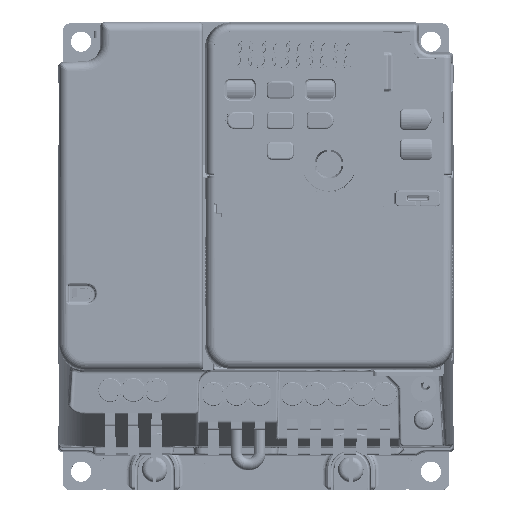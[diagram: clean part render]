
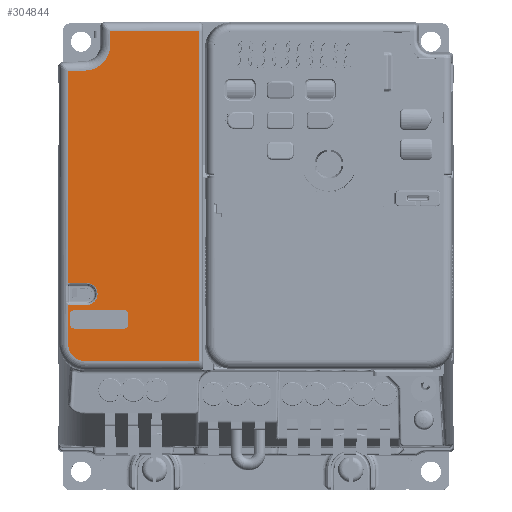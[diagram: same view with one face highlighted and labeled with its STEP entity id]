
A CAD part, top view. The second image highlights one B-rep face of the part: STEP entity #304844.
In plain terms, the highlighted planar face has unit normal (0, 0, 1).
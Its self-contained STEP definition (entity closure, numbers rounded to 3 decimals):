
#238675=CARTESIAN_POINT('',(-40.,125.5,
107.3));
#238694=CARTESIAN_POINT('',(-15.622,125.5,
107.3));
#238696=DIRECTION('',(-1.,0.,0.));
#238697=VECTOR('',#238696,24.378);
#238698=CARTESIAN_POINT('',(-15.622,125.5,
107.3));
#238699=LINE('',#238698,#238697);
#238715=DIRECTION('',(0.,-1.,0.));
#238716=VECTOR('',#238715,3.73);
#238717=CARTESIAN_POINT('',(-40.,125.5,
107.3));
#238718=LINE('',#238717,#238716);
#238723=CARTESIAN_POINT('',(-51.044,56.544,
107.3));
#238724=CARTESIAN_POINT('',(-51.097,56.544,
107.3));
#238725=CARTESIAN_POINT('',(-51.201,56.535,
107.3));
#238726=CARTESIAN_POINT('',(-51.356,56.498,
107.3));
#238727=CARTESIAN_POINT('',(-51.453,56.458,
107.3));
#238728=CARTESIAN_POINT('',(-51.5,56.434,107.3));
#238730=DIRECTION('',(0.999,0.052,0.));
#238731=VECTOR('',#238730,4.873);
#238732=CARTESIAN_POINT('',(-51.5,114.525,107.3));
#238733=LINE('',#238732,#238731);
#238734=CARTESIAN_POINT('',(-47.,121.77,107.3));
#238735=DIRECTION('',(0.,0.,1.));
#238736=DIRECTION('',(0.052,-0.999,0.));
#238737=AXIS2_PLACEMENT_3D('',#238734,#238735,#238736);
#238739=CARTESIAN_POINT('',(-47.,39.6,107.3));
#238740=DIRECTION('',(0.,0.,-1.));
#238741=DIRECTION('',(0.,-1.,0.));
#238742=AXIS2_PLACEMENT_3D('',#238739,#238740,#238741);
#238744=CARTESIAN_POINT('',(-51.5,50.566,107.3));
#238745=CARTESIAN_POINT('',(-51.453,50.542,
107.3));
#238746=CARTESIAN_POINT('',(-51.356,50.502,
107.3));
#238747=CARTESIAN_POINT('',(-51.201,50.465,
107.3));
#238748=CARTESIAN_POINT('',(-51.097,50.456,
107.3));
#238749=CARTESIAN_POINT('',(-51.044,50.456,
107.3));
#238751=CARTESIAN_POINT('',(-46.5,53.5,107.3));
#238752=DIRECTION('',(0.,0.,1.));
#238753=DIRECTION('',(0.,-1.,0.));
#238754=AXIS2_PLACEMENT_3D('',#238751,#238752,#238753);
#238756=CARTESIAN_POINT('',(-50.,45.,107.3));
#238757=DIRECTION('',(0.,0.,1.));
#238758=DIRECTION('',(-1.,0.,0.));
#238759=AXIS2_PLACEMENT_3D('',#238756,#238757,#238758);
#238761=CARTESIAN_POINT('',(-36.,45.,107.3));
#238762=DIRECTION('',(0.,0.,1.));
#238763=DIRECTION('',(0.,-1.,0.));
#238764=AXIS2_PLACEMENT_3D('',#238761,#238762,#238763);
#238766=CARTESIAN_POINT('',(-36.,48.,107.3));
#238767=DIRECTION('',(0.,0.,1.));
#238768=DIRECTION('',(1.,0.,0.));
#238769=AXIS2_PLACEMENT_3D('',#238766,#238767,#238768);
#238771=CARTESIAN_POINT('',(-50.,48.,107.3));
#238772=DIRECTION('',(0.,0.,1.));
#238773=DIRECTION('',(0.,1.,0.));
#238774=AXIS2_PLACEMENT_3D('',#238771,#238772,#238773);
#238776=DIRECTION('',(1.,0.,0.));
#238777=VECTOR('',#238776,4.544);
#238778=CARTESIAN_POINT('',(-51.044,56.544,
107.3));
#238779=LINE('',#238778,#238777);
#238821=DIRECTION('',(-1.,0.,0.));
#238822=VECTOR('',#238821,4.544);
#238823=CARTESIAN_POINT('',(-46.5,50.456,107.3));
#238824=LINE('',#238823,#238822);
#238855=DIRECTION('',(0.,-1.,0.));
#238856=VECTOR('',#238855,10.966);
#238857=CARTESIAN_POINT('',(-51.5,50.566,107.3));
#238858=LINE('',#238857,#238856);
#238871=DIRECTION('',(0.,-1.,0.));
#238872=VECTOR('',#238871,58.091);
#238873=CARTESIAN_POINT('',(-51.5,114.525,107.3));
#238874=LINE('',#238873,#238872);
#241340=DIRECTION('',(1.,0.,0.));
#241341=VECTOR('',#241340,31.378);
#241342=CARTESIAN_POINT('',(-47.,35.1,107.3));
#241343=LINE('',#241342,#241341);
#241354=DIRECTION('',(0.,1.,0.));
#241355=VECTOR('',#241354,90.4);
#241356=CARTESIAN_POINT('',(-15.622,35.1,
107.3));
#241357=LINE('',#241356,#241355);
#274624=DIRECTION('',(0.,1.,0.));
#274625=VECTOR('',#274624,3.);
#274626=CARTESIAN_POINT('',(-51.,45.,107.3));
#274627=LINE('',#274626,#274625);
#274980=DIRECTION('',(1.,0.,0.));
#274981=VECTOR('',#274980,14.);
#274982=CARTESIAN_POINT('',(-50.,49.,107.3));
#274983=LINE('',#274982,#274981);
#274992=DIRECTION('',(0.,-1.,0.));
#274993=VECTOR('',#274992,3.);
#274994=CARTESIAN_POINT('',(-35.,48.,107.3));
#274995=LINE('',#274994,#274993);
#275004=DIRECTION('',(-1.,0.,0.));
#275005=VECTOR('',#275004,14.);
#275006=CARTESIAN_POINT('',(-36.,44.,107.3));
#275007=LINE('',#275006,#275005);
#287556=VERTEX_POINT('',#238694);
#287557=VERTEX_POINT('',#238675);
#287560=CARTESIAN_POINT('',(-40.,121.77,107.3));
#287561=VERTEX_POINT('',#287560);
#287564=CARTESIAN_POINT('',(-51.044,56.544,
107.3));
#287565=CARTESIAN_POINT('',(-46.5,56.544,107.3));
#287566=VERTEX_POINT('',#287564);
#287567=VERTEX_POINT('',#287565);
#287568=VERTEX_POINT('',#238728);
#287569=CARTESIAN_POINT('',(-51.5,114.525,107.3));
#287570=VERTEX_POINT('',#287569);
#287571=CARTESIAN_POINT('',(-46.634,114.78,107.3));
#287572=VERTEX_POINT('',#287571);
#287573=CARTESIAN_POINT('',(-15.622,35.1,
107.3));
#287574=VERTEX_POINT('',#287573);
#287575=CARTESIAN_POINT('',(-47.,35.1,107.3));
#287576=VERTEX_POINT('',#287575);
#287577=CARTESIAN_POINT('',(-51.5,39.6,107.3));
#287578=VERTEX_POINT('',#287577);
#287579=CARTESIAN_POINT('',(-51.5,50.566,107.3));
#287580=VERTEX_POINT('',#287579);
#287581=VERTEX_POINT('',#238749);
#287582=CARTESIAN_POINT('',(-46.5,50.456,107.3));
#287583=VERTEX_POINT('',#287582);
#287584=CARTESIAN_POINT('',(-51.,45.,107.3));
#287585=CARTESIAN_POINT('',(-51.,48.,107.3));
#287586=VERTEX_POINT('',#287584);
#287587=VERTEX_POINT('',#287585);
#287588=CARTESIAN_POINT('',(-50.,44.,107.3));
#287589=VERTEX_POINT('',#287588);
#287590=CARTESIAN_POINT('',(-36.,44.,107.3));
#287591=VERTEX_POINT('',#287590);
#287592=CARTESIAN_POINT('',(-35.,45.,107.3));
#287593=VERTEX_POINT('',#287592);
#287594=CARTESIAN_POINT('',(-35.,48.,107.3));
#287595=VERTEX_POINT('',#287594);
#287596=CARTESIAN_POINT('',(-36.,49.,107.3));
#287597=VERTEX_POINT('',#287596);
#287598=CARTESIAN_POINT('',(-50.,49.,107.3));
#287599=VERTEX_POINT('',#287598);
#304793=CARTESIAN_POINT('',(0.,0.,107.3));
#304794=DIRECTION('',(0.,0.,1.));
#304795=DIRECTION('',(1.,0.,0.));
#304796=AXIS2_PLACEMENT_3D('',#304793,#304794,#304795);
#304797=PLANE('',#304796);
#304799=ORIENTED_EDGE('',*,*,#304798,.F.);
#304801=ORIENTED_EDGE('',*,*,#304800,.T.);
#304803=ORIENTED_EDGE('',*,*,#304802,.F.);
#304805=ORIENTED_EDGE('',*,*,#304804,.T.);
#304807=ORIENTED_EDGE('',*,*,#304806,.T.);
#304808=ORIENTED_EDGE('',*,*,#304784,.F.);
#304809=ORIENTED_EDGE('',*,*,#304712,.F.);
#304811=ORIENTED_EDGE('',*,*,#304810,.F.);
#304813=ORIENTED_EDGE('',*,*,#304812,.F.);
#304815=ORIENTED_EDGE('',*,*,#304814,.T.);
#304817=ORIENTED_EDGE('',*,*,#304816,.F.);
#304819=ORIENTED_EDGE('',*,*,#304818,.T.);
#304821=ORIENTED_EDGE('',*,*,#304820,.F.);
#304823=ORIENTED_EDGE('',*,*,#304822,.T.);
#304824=EDGE_LOOP('',(#304799,#304801,#304803,#304805,#304807,#304808,#304809,
#304811,#304813,#304815,#304817,#304819,#304821,#304823));
#304825=FACE_OUTER_BOUND('',#304824,.F.);
#304827=ORIENTED_EDGE('',*,*,#304826,.F.);
#304829=ORIENTED_EDGE('',*,*,#304828,.T.);
#304831=ORIENTED_EDGE('',*,*,#304830,.F.);
#304833=ORIENTED_EDGE('',*,*,#304832,.T.);
#304835=ORIENTED_EDGE('',*,*,#304834,.F.);
#304837=ORIENTED_EDGE('',*,*,#304836,.T.);
#304839=ORIENTED_EDGE('',*,*,#304838,.F.);
#304841=ORIENTED_EDGE('',*,*,#304840,.T.);
#304842=EDGE_LOOP('',(#304827,#304829,#304831,#304833,#304835,#304837,#304839,
#304841));
#304843=FACE_BOUND('',#304842,.F.);
#304844=ADVANCED_FACE('',(#304825,#304843),#304797,.T.);
#238729=B_SPLINE_CURVE_WITH_KNOTS('',3,(#238723,#238724,#238725,#238726,#238727,
#238728),.UNSPECIFIED.,.F.,.F.,(4,1,1,4),(0.,0.333,
0.667,1.),.UNSPECIFIED.);
#238738=CIRCLE('',#238737,7.);
#238743=CIRCLE('',#238742,4.5);
#238750=B_SPLINE_CURVE_WITH_KNOTS('',3,(#238744,#238745,#238746,#238747,#238748,
#238749),.UNSPECIFIED.,.F.,.F.,(4,1,1,4),(0.,0.333,
0.667,1.),.UNSPECIFIED.);
#238755=CIRCLE('',#238754,3.044);
#238760=CIRCLE('',#238759,1.);
#238765=CIRCLE('',#238764,1.);
#238770=CIRCLE('',#238769,1.);
#238775=CIRCLE('',#238774,1.);
#304712=EDGE_CURVE('',#287556,#287557,#238699,.T.);
#304784=EDGE_CURVE('',#287557,#287561,#238718,.T.);
#304798=EDGE_CURVE('',#287566,#287567,#238779,.T.);
#304800=EDGE_CURVE('',#287566,#287568,#238729,.T.);
#304802=EDGE_CURVE('',#287570,#287568,#238874,.T.);
#304804=EDGE_CURVE('',#287570,#287572,#238733,.T.);
#304806=EDGE_CURVE('',#287572,#287561,#238738,.T.);
#304810=EDGE_CURVE('',#287574,#287556,#241357,.T.);
#304812=EDGE_CURVE('',#287576,#287574,#241343,.T.);
#304814=EDGE_CURVE('',#287576,#287578,#238743,.T.);
#304816=EDGE_CURVE('',#287580,#287578,#238858,.T.);
#304818=EDGE_CURVE('',#287580,#287581,#238750,.T.);
#304820=EDGE_CURVE('',#287583,#287581,#238824,.T.);
#304822=EDGE_CURVE('',#287583,#287567,#238755,.T.);
#304826=EDGE_CURVE('',#287586,#287587,#274627,.T.);
#304828=EDGE_CURVE('',#287586,#287589,#238760,.T.);
#304830=EDGE_CURVE('',#287591,#287589,#275007,.T.);
#304832=EDGE_CURVE('',#287591,#287593,#238765,.T.);
#304834=EDGE_CURVE('',#287595,#287593,#274995,.T.);
#304836=EDGE_CURVE('',#287595,#287597,#238770,.T.);
#304838=EDGE_CURVE('',#287599,#287597,#274983,.T.);
#304840=EDGE_CURVE('',#287599,#287587,#238775,.T.);
